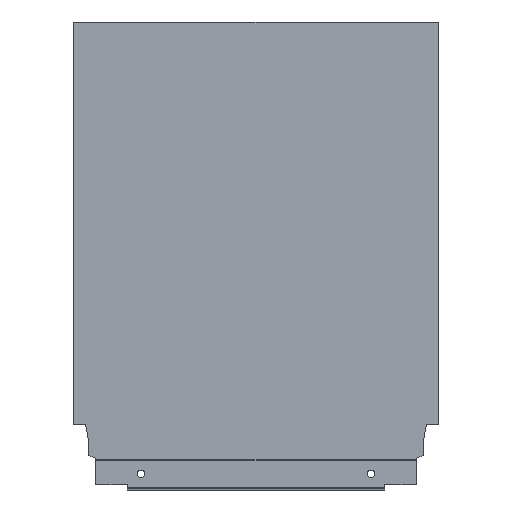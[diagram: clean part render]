
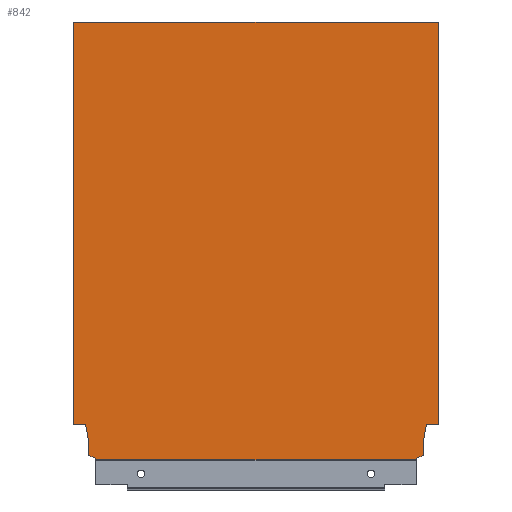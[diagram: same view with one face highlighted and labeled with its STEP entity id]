
A CAD part, top view. The second image highlights one B-rep face of the part: STEP entity #842.
In plain terms, the highlighted planar face has unit normal (0, 0, 1).
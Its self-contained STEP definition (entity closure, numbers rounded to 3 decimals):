
#11 = EDGE_CURVE ( 'NONE', #427, #390, #1242, .T. ) ;
#24 = EDGE_CURVE ( 'NONE', #399, #376, #1138, .T. ) ;
#42 = EDGE_CURVE ( 'NONE', #410, #407, #1133, .T. ) ;
#70 = EDGE_CURVE ( 'NONE', #401, #390, #1069, .T. ) ;
#100 = EDGE_CURVE ( 'NONE', #412, #367, #1062, .T. ) ;
#112 = AXIS2_PLACEMENT_3D ( 'NONE', #716, #776, #561 ) ;
#127 = EDGE_CURVE ( 'NONE', #401, #430, #912, .T. ) ;
#128 = EDGE_CURVE ( 'NONE', #430, #364, #894, .T. ) ;
#144 = EDGE_CURVE ( 'NONE', #397, #427, #1086, .T. ) ;
#169 = EDGE_CURVE ( 'NONE', #399, #367, #906, .T. ) ;
#172 = EDGE_CURVE ( 'NONE', #423, #397, #1023, .T. ) ;
#173 = EDGE_CURVE ( 'NONE', #376, #423, #870, .T. ) ;
#174 = EDGE_CURVE ( 'NONE', #404, #412, #1018, .T. ) ;
#175 = EDGE_CURVE ( 'NONE', #407, #404, #979, .T. ) ;
#177 = EDGE_CURVE ( 'NONE', #364, #410, #1032, .T. ) ;
#210 = DIRECTION ( 'NONE',  ( -0.94, -0.342, 0. ) ) ;
#211 = CARTESIAN_POINT ( 'NONE',  ( -208.1, 2.64, 8. ) ) ;
#214 = DIRECTION ( 'NONE',  ( 0., -1., 0. ) ) ;
#218 = DIRECTION ( 'NONE',  ( 0., 1., 0. ) ) ;
#219 = CARTESIAN_POINT ( 'NONE',  ( -8.9, 2.64, 8. ) ) ;
#222 = DIRECTION ( 'NONE',  ( -0.94, 0.342, 0. ) ) ;
#224 = CARTESIAN_POINT ( 'NONE',  ( -13.004, 1.146, 8. ) ) ;
#225 = CARTESIAN_POINT ( 'NONE',  ( -208.1, 10.765, 8. ) ) ;
#240 = DIRECTION ( 'NONE',  ( 0., -1., 0. ) ) ;
#241 = CARTESIAN_POINT ( 'NONE',  ( -217., 0., 8. ) ) ;
#284 = DIRECTION ( 'NONE',  ( -0.174, -0.985, 0. ) ) ;
#295 = CARTESIAN_POINT ( 'NONE',  ( -7.06, 21.2, 8. ) ) ;
#320 = DIRECTION ( 'NONE',  ( 0., 1., 0. ) ) ;
#323 = CARTESIAN_POINT ( 'NONE',  ( -203.996, 1.146, 8. ) ) ;
#342 = DIRECTION ( 'NONE',  ( -1., 0., 0. ) ) ;
#345 = CARTESIAN_POINT ( 'NONE',  ( -222., 21.2, 8. ) ) ;
#364 = VERTEX_POINT ( 'NONE', #674 ) ;
#367 = VERTEX_POINT ( 'NONE', #639 ) ;
#376 = VERTEX_POINT ( 'NONE', #636 ) ;
#390 = VERTEX_POINT ( 'NONE', #600 ) ;
#397 = VERTEX_POINT ( 'NONE', #656 ) ;
#399 = VERTEX_POINT ( 'NONE', #655 ) ;
#401 = VERTEX_POINT ( 'NONE', #634 ) ;
#404 = VERTEX_POINT ( 'NONE', #618 ) ;
#407 = VERTEX_POINT ( 'NONE', #622 ) ;
#410 = VERTEX_POINT ( 'NONE', #631 ) ;
#412 = VERTEX_POINT ( 'NONE', #628 ) ;
#423 = VERTEX_POINT ( 'NONE', #721 ) ;
#427 = VERTEX_POINT ( 'NONE', #646 ) ;
#430 = VERTEX_POINT ( 'NONE', #672 ) ;
#437 = CARTESIAN_POINT ( 'NONE',  ( -217., 0., 8. ) ) ;
#438 = DIRECTION ( 'NONE',  ( 1., 0., 0. ) ) ;
#457 = DIRECTION ( 'NONE',  ( 0., -1., 0. ) ) ;
#492 = DIRECTION ( 'NONE',  ( -0.174, 0.985, 0. ) ) ;
#493 = CARTESIAN_POINT ( 'NONE',  ( -209.94, 21.2, 8. ) ) ;
#501 = CARTESIAN_POINT ( 'NONE',  ( -217., 260.7, 8. ) ) ;
#561 = DIRECTION ( 'NONE',  ( 1., 0., 0. ) ) ;
#569 = CARTESIAN_POINT ( 'NONE',  ( 0., 0., 8. ) ) ;
#570 = DIRECTION ( 'NONE',  ( 1., 0., 0. ) ) ;
#600 = CARTESIAN_POINT ( 'NONE',  ( -217., 21.2, 8. ) ) ;
#618 = CARTESIAN_POINT ( 'NONE',  ( -8.9, 2.64, 8. ) ) ;
#622 = CARTESIAN_POINT ( 'NONE',  ( -8.9, 10.765, 8. ) ) ;
#628 = CARTESIAN_POINT ( 'NONE',  ( -13.004, 1.146, 8. ) ) ;
#631 = CARTESIAN_POINT ( 'NONE',  ( -7.06, 21.2, 8. ) ) ;
#634 = CARTESIAN_POINT ( 'NONE',  ( -217., 260.7, 8. ) ) ;
#636 = CARTESIAN_POINT ( 'NONE',  ( -203.996, 1.146, 8. ) ) ;
#639 = CARTESIAN_POINT ( 'NONE',  ( -13.004, 0., 8. ) ) ;
#646 = CARTESIAN_POINT ( 'NONE',  ( -209.94, 21.2, 8. ) ) ;
#655 = CARTESIAN_POINT ( 'NONE',  ( -203.996, 0., 8. ) ) ;
#656 = CARTESIAN_POINT ( 'NONE',  ( -208.1, 10.765, 8. ) ) ;
#672 = CARTESIAN_POINT ( 'NONE',  ( 0., 260.7, 8. ) ) ;
#674 = CARTESIAN_POINT ( 'NONE',  ( 0., 21.2, 8. ) ) ;
#714 = PLANE ( 'NONE',  #112 ) ;
#716 = CARTESIAN_POINT ( 'NONE',  ( -217., 0., 8. ) ) ;
#721 = CARTESIAN_POINT ( 'NONE',  ( -208.1, 2.64, 8. ) ) ;
#776 = DIRECTION ( 'NONE',  ( 0., 0., 1. ) ) ;
#797 = DIRECTION ( 'NONE',  ( 0., -1., 0. ) ) ;
#798 = CARTESIAN_POINT ( 'NONE',  ( -8.9, 10.765, 8. ) ) ;
#799 = DIRECTION ( 'NONE',  ( -1., 0., 0. ) ) ;
#800 = CARTESIAN_POINT ( 'NONE',  ( 0., 21.2, 8. ) ) ;
#842 = ADVANCED_FACE ( 'NONE', ( #941 ), #714, .T. ) ;
#870 = LINE ( 'NONE', #211, #983 ) ;
#879 = VECTOR ( 'NONE', #457, 1000. ) ;
#882 = VECTOR ( 'NONE', #570, 1000. ) ;
#894 = LINE ( 'NONE', #569, #879 ) ;
#906 = LINE ( 'NONE', #437, #985 ) ;
#912 = LINE ( 'NONE', #501, #882 ) ;
#941 = FACE_OUTER_BOUND ( 'NONE', #1350, .T. ) ;
#979 = LINE ( 'NONE', #798, #981 ) ;
#980 = VECTOR ( 'NONE', #210, 1000. ) ;
#981 = VECTOR ( 'NONE', #797, 1000. ) ;
#982 = VECTOR ( 'NONE', #218, 1000. ) ;
#983 = VECTOR ( 'NONE', #222, 1000. ) ;
#985 = VECTOR ( 'NONE', #438, 1000. ) ;
#996 = VECTOR ( 'NONE', #214, 1000. ) ;
#1018 = LINE ( 'NONE', #219, #980 ) ;
#1023 = LINE ( 'NONE', #225, #982 ) ;
#1032 = LINE ( 'NONE', #800, #1039 ) ;
#1039 = VECTOR ( 'NONE', #799, 1000. ) ;
#1062 = LINE ( 'NONE', #224, #996 ) ;
#1068 = VECTOR ( 'NONE', #240, 1000. ) ;
#1069 = LINE ( 'NONE', #241, #1068 ) ;
#1086 = LINE ( 'NONE', #493, #1087 ) ;
#1087 = VECTOR ( 'NONE', #492, 1000. ) ;
#1111 = VECTOR ( 'NONE', #284, 1000. ) ;
#1133 = LINE ( 'NONE', #295, #1111 ) ;
#1134 = VECTOR ( 'NONE', #320, 1000. ) ;
#1138 = LINE ( 'NONE', #323, #1134 ) ;
#1154 = VECTOR ( 'NONE', #342, 1000. ) ;
#1242 = LINE ( 'NONE', #345, #1154 ) ;
#1304 = ORIENTED_EDGE ( 'NONE', *, *, #127, .F. ) ;
#1350 = EDGE_LOOP ( 'NONE', ( #1386, #1387, #1382, #1383, #1384, #1379, #1380, #1381, #1376, #1377, #1378, #1370, #1371, #1304 ) ) ;
#1370 = ORIENTED_EDGE ( 'NONE', *, *, #177, .F. ) ;
#1371 = ORIENTED_EDGE ( 'NONE', *, *, #128, .F. ) ;
#1376 = ORIENTED_EDGE ( 'NONE', *, *, #174, .F. ) ;
#1377 = ORIENTED_EDGE ( 'NONE', *, *, #175, .F. ) ;
#1378 = ORIENTED_EDGE ( 'NONE', *, *, #42, .F. ) ;
#1379 = ORIENTED_EDGE ( 'NONE', *, *, #24, .F. ) ;
#1380 = ORIENTED_EDGE ( 'NONE', *, *, #169, .T. ) ;
#1381 = ORIENTED_EDGE ( 'NONE', *, *, #100, .F. ) ;
#1382 = ORIENTED_EDGE ( 'NONE', *, *, #144, .F. ) ;
#1383 = ORIENTED_EDGE ( 'NONE', *, *, #172, .F. ) ;
#1384 = ORIENTED_EDGE ( 'NONE', *, *, #173, .F. ) ;
#1386 = ORIENTED_EDGE ( 'NONE', *, *, #70, .T. ) ;
#1387 = ORIENTED_EDGE ( 'NONE', *, *, #11, .F. ) ;
